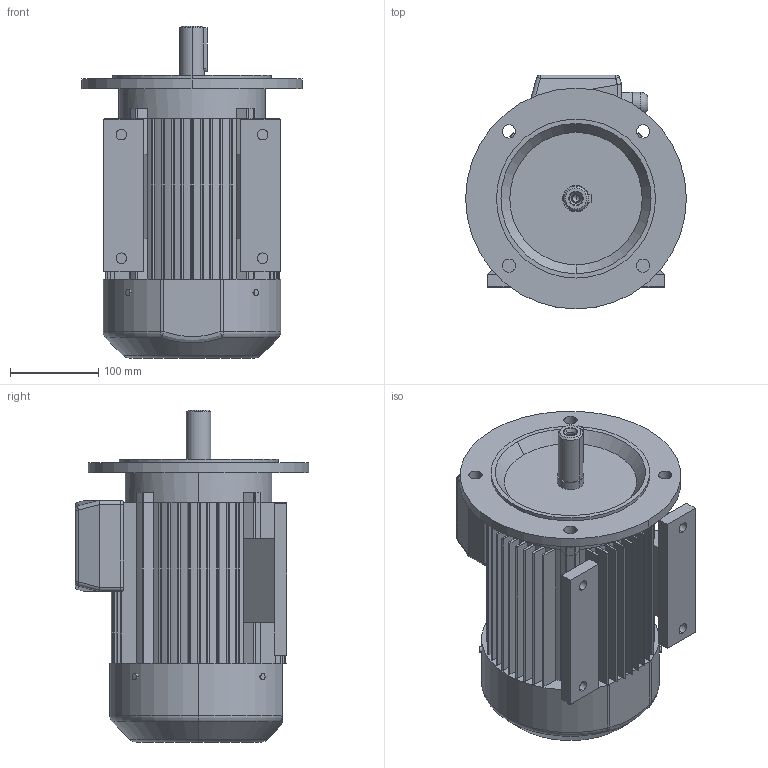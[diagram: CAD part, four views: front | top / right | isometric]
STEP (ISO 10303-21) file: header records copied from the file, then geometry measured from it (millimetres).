
FILE_DESCRIPTION (( 'STEP AP203' ), '1' );
FILE_NAME ('SLg 100L-B35.STEP', '2010-02-09T12:32:19', ( 'INDUKTA' ), ( 'CANTONI MOTOR' ), 'SwSTEP 2.0', 'SolidWorks 2003064', '' );
FILE_SCHEMA (( 'CONFIG_CONTROL_DESIGN' ));
Length unit declared in the file: millimetre
Products named in the file (1): SLg 100L-B35
Bounding box: 250 x 265 x 376 mm (x, y, z)
Volume: 9135877.2 mm3; surface area: 695468.8 mm2
Topology: 13 solids, 13 shells, 530 faces, 1415 edges, 917 vertices
Faces by surface type: plane 262, cylinder 194, bspline 43, cone 14, torus 11, sphere 6
Entity records: 19888 total; most frequent: CARTESIAN_POINT 6645, ORIENTED_EDGE 2814, DIRECTION 2668, EDGE_CURVE 1407, VERTEX_POINT 917, AXIS2_PLACEMENT_3D 894, LINE 880, VECTOR 880
